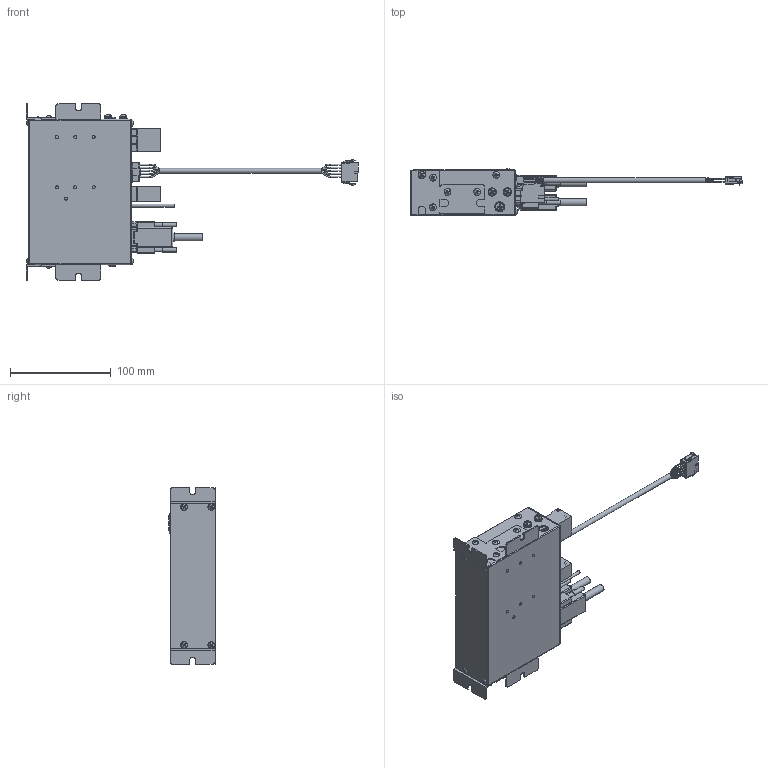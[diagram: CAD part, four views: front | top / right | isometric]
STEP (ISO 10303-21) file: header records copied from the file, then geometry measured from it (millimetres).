
FILE_DESCRIPTION (( 'STEP AP203' ), '1' );
FILE_NAME ('EV Drive-E_3D-01-S0312.STEP', '2018-10-07T09:09:41', ( '' ), ( '' ), 'SwSTEP 2.0', 'SolidWorks 2016', '' );
FILE_SCHEMA (( 'CONFIG_CONTROL_DESIGN' ));
Products named in the file (1): EV Drive-E_3D-01-S0312
Bounding box: 330.09 x 46.29 x 175.2 mm (x, y, z)
Volume: 722553.6 mm3; surface area: 95767.9 mm2
Topology: 3 solids, 89 shells, 3569 faces, 9382 edges, 6178 vertices
Faces by surface type: plane 2567, bspline 482, cylinder 442, torus 53, sphere 13, cone 12
Full cylindrical faces by diameter (mm): 0.457 x2, 0.6 x3, 1 x20, 1.09 x14, 1.1 x10, 1.297 x1, 2 x12, 2.3 x4, 2.5 x4, 2.84 x10, 3 x13, 3.1 x5, 3.2 x8, 3.3 x8, 3.6 x5, 3.7 x3, 4 x4, 4.2 x4, 4.3 x2, 4.5 x1, 5 x1, 5.25 x3, 7 x4, 8 x1, 8.2 x2, 8.6 x1, 9 x2, 10 x1
Entity records: 153020 total; most frequent: CARTESIAN_POINT 71240, ORIENTED_EDGE 17810, DIRECTION 14459, EDGE_CURVE 8905, VECTOR 6415, LINE 6415, VERTEX_POINT 5967, EDGE_LOOP 4168
